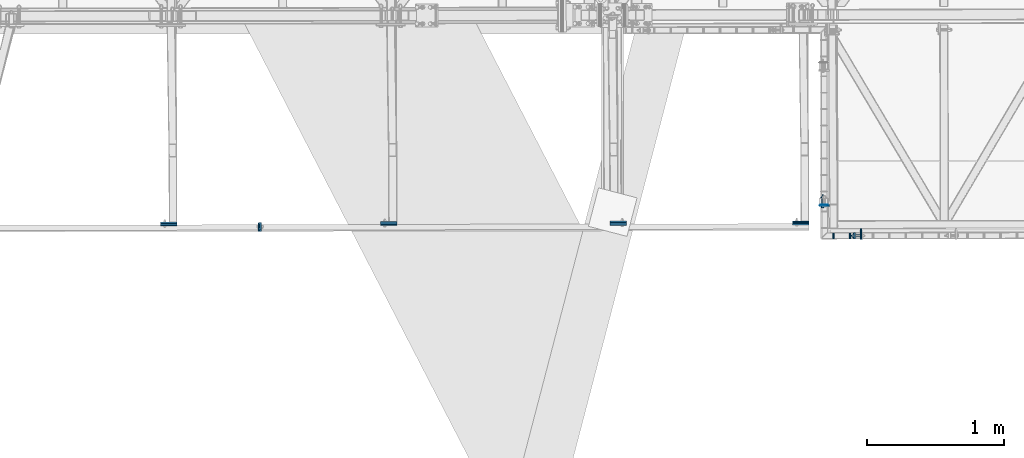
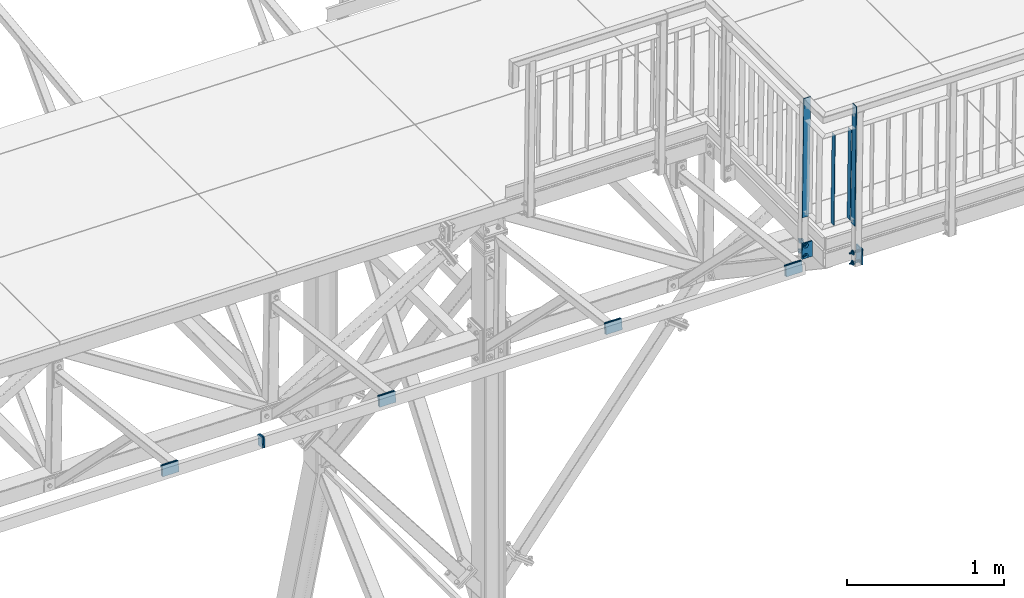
# One storey, part 98 of 169: 16 discrete accessories, 2 mechanical fasteners, 8 elements without a shape of their own.
"""IFC2X3 building model written with IfcOpenShell, lengths in millimetres."""

from ifc_helpers import new_model, si_unit, frame, origin_with_axes, origin_2d_with_axis, place, context, subcontext, project, spatial, polyline, rectangle, circle, outline, extrude, clip, halfspace, source, transform, mapped, material, type_object, element, aggregate, save


model = new_model("IFC2X3")

# Units and contexts
model_context = context("Model", 3, precision=1e-05, world=origin_with_axes())
body_context = subcontext(model_context, "Body", "Model", "MODEL_VIEW")
ifc_project = project(units=[si_unit("LENGTHUNIT", "METRE", prefix="MILLI"), si_unit("AREAUNIT", "SQUARE_METRE"), si_unit("VOLUMEUNIT", "CUBIC_METRE"), si_unit("MASSUNIT", "GRAM", prefix="KILO"), si_unit("TIMEUNIT", "SECOND"), si_unit("PLANEANGLEUNIT", "RADIAN"), si_unit("SOLIDANGLEUNIT", "STERADIAN"), si_unit("THERMODYNAMICTEMPERATUREUNIT", "DEGREE_CELSIUS"), si_unit("LUMINOUSINTENSITYUNIT", "LUMEN")], contexts=[model_context])

# Site, building, storey
site_placement = place(None, origin_with_axes())
site = spatial("IfcSite", under=ifc_project, at=site_placement, Name="Undefined", CompositionType="ELEMENT")
building_placement = place(site_placement, origin_with_axes())
building = spatial("IfcBuilding", under=site, at=building_placement, Name="Undefined", CompositionType="ELEMENT")
storey_placement = place(building_placement, origin_with_axes())
storey = spatial("IfcBuildingStorey", under=building, at=storey_placement, Name="Undefined", CompositionType="ELEMENT", Elevation=0.0)

# Assembly, discrete accessory
assembly_1_placement = place(storey_placement, origin_with_axes())
assembly_1 = element("IfcElementAssembly", 1, at=assembly_1_placement, inside=storey, Name="Steel Assembly", AssemblyPlace="NOTDEFINED", PredefinedType="RIGID_FRAME")
ifc_material_1 = material(Name="STEEL/S235")
discrete_accessory_type_1 = type_object("IfcDiscreteAccessoryType", Name="BLACHA")
discrete_accessory_1_placement = place(assembly_1_placement, frame((3560.31133572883, -1430.92960070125, 13861.3668822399), z_axis=(0.00334696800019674, -0.99305658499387, 0.117590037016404), x_axis=(0.0124056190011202, 0.117622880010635, 0.992980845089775)))
discrete_accessory_1 = element("IfcDiscreteAccessory", 2, at=discrete_accessory_1_placement, type_object=discrete_accessory_type_1, material=ifc_material_1, Name="BLACHA", ObjectType="BL10*55", context=body_context, shape_type="SweptSolid", body=[
    extrude(rectangle(XDim=10.0, YDim=55.0, at=origin_2d_with_axis()), frame((79.9999999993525, -4.5446979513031e-13, -4.53637127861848e-13), z_axis=(-1.0, -3.46944695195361e-18, -1.38777878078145e-17), x_axis=(1.73472347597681e-18, -1.0, 0.0)), (0.0, 0.0, 1.0), 80.0),
])

assembly_2_placement = place(storey_placement, origin_with_axes())
assembly_2 = element("IfcElementAssembly", 3, at=assembly_2_placement, inside=storey, Name="Steel Assembly", AssemblyPlace="NOTDEFINED", PredefinedType="RIGID_FRAME")
discrete_accessory_2_placement = place(assembly_2_placement, frame((3550.31216126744, -1430.94824758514, 13861.4940137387), z_axis=(0.00334696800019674, -0.99305658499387, 0.117590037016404), x_axis=(0.0124056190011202, 0.117622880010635, 0.992980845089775)))
discrete_accessory_2 = element("IfcDiscreteAccessory", 4, at=discrete_accessory_2_placement, type_object=discrete_accessory_type_1, material=ifc_material_1, Name="BLACHA", ObjectType="BL10*55", context=body_context, shape_type="SweptSolid", body=[
    extrude(rectangle(XDim=10.0, YDim=55.0, at=origin_2d_with_axis()), frame((79.9999999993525, -4.5446979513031e-13, -4.53637127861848e-13), z_axis=(-1.0, -3.46944695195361e-18, -1.38777878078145e-17), x_axis=(1.73472347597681e-18, -1.0, 0.0)), (0.0, 0.0, 1.0), 80.0),
])

assembly_3_placement = place(storey_placement, origin_with_axes())
assembly_3 = element("IfcElementAssembly", 5, at=assembly_3_placement, inside=storey, Name="Steel Assembly", AssemblyPlace="NOTDEFINED", PredefinedType="RIGID_FRAME")
discrete_accessory_3_placement = place(assembly_3_placement, frame((2893.26659711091, -1394.45847995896, 13946.002794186), z_axis=(-0.999917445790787, -0.00186469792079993, 0.0127131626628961), x_axis=(-0.0124058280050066, -0.117560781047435, -0.992988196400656)))
discrete_accessory_3 = element("IfcDiscreteAccessory", 6, at=discrete_accessory_3_placement, type_object=discrete_accessory_type_1, material=ifc_material_1, Name="BLACHA", ObjectType="BL10*120", context=body_context, shape_type="SweptSolid", body=[
    extrude(rectangle(XDim=10.0, YDim=120.0, at=origin_2d_with_axis()), frame((79.9999999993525, -4.5446979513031e-13, -4.53637127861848e-13), z_axis=(-1.0, -3.46944695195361e-18, -1.38777878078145e-17), x_axis=(1.73472347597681e-18, -1.0, 0.0)), (0.0, 0.0, 1.0), 80.0),
])
aggregate(assembly_3, [discrete_accessory_3])

# Discrete accessory
discrete_accessory_4_placement = place(assembly_2_placement, frame((2893.30273127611, -1405.38856979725, 13947.2416571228), z_axis=(-0.999917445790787, -0.00186469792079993, 0.0127131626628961), x_axis=(-0.0124058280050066, -0.117560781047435, -0.992988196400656)))
discrete_accessory_4 = element("IfcDiscreteAccessory", 7, at=discrete_accessory_4_placement, type_object=discrete_accessory_type_1, material=ifc_material_1, Name="BLACHA", ObjectType="BL10*120", context=body_context, shape_type="SweptSolid", body=[
    extrude(rectangle(XDim=10.0, YDim=120.0, at=origin_2d_with_axis()), frame((79.9999999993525, -4.5446979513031e-13, -4.53637127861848e-13), z_axis=(-1.0, -3.46944695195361e-18, -1.38777878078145e-17), x_axis=(1.73472347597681e-18, -1.0, 0.0)), (0.0, 0.0, 1.0), 80.0),
])

aggregate(assembly_2, [discrete_accessory_2, discrete_accessory_4])

# Assembly, discrete accessories
assembly_4_placement = place(storey_placement, origin_with_axes())
assembly_4 = element("IfcElementAssembly", 8, at=assembly_4_placement, inside=storey, Name="Steel Assembly", AssemblyPlace="NOTDEFINED", PredefinedType="RIGID_FRAME")
discrete_accessory_5_placement = place(assembly_4_placement, frame((7705.29067394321, -1270.61904360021, 13856.3390308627), z_axis=(-0.0018648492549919, 0.999998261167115, -4.2996762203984e-08), x_axis=(-0.999917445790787, -0.00186469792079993, 0.0127131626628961)))
discrete_accessory_5 = element("IfcDiscreteAccessory", 9, at=discrete_accessory_5_placement, type_object=discrete_accessory_type_1, material=ifc_material_1, Name="BLACHA", ObjectType="BL10*120", context=body_context, shape_type="SweptSolid", body=[
    extrude(outline(polyline([(75.0001398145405, -60.0000000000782), (-5.35749222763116e-11, -59.9999999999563), (5.3567816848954e-11, 59.9999999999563), (75.0001398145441, 59.9999999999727), (75.0001398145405, -60.0000000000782)])), frame((-1.81898926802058e-12, -1.18000176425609e-16, -5.00000000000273), z_axis=(0.0, 0.0, 1.0), x_axis=(1.0, 0.0, 0.0)), (0.0, 0.0, 1.0), 10.0),
])
discrete_accessory_6_placement = place(assembly_4_placement, frame((7935.58857246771, -1440.18986967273, 13853.4150127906), z_axis=(-0.999917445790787, -0.00186469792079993, 0.0127131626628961), x_axis=(0.00186484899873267, -0.999998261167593, 4.28757666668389e-08)))
discrete_accessory_6 = element("IfcDiscreteAccessory", 10, at=discrete_accessory_6_placement, type_object=discrete_accessory_type_1, material=ifc_material_1, Name="BLACHA", ObjectType="BL10*120", context=body_context, shape_type="SweptSolid", body=[
    extrude(outline(polyline([(75.0000002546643, -60.0000000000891), (-5.35749222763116e-11, -59.9999999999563), (5.3567816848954e-11, 59.9999999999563), (75.0000002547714, 59.9999999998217), (75.0000002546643, -60.0000000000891)])), frame((-1.81898926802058e-12, -1.18000176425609e-16, -5.00000000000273), z_axis=(0.0, 0.0, 1.0), x_axis=(1.0, 0.0, 0.0)), (0.0, 0.0, 1.0), 10.0),
])
aggregate(assembly_4, [discrete_accessory_5, discrete_accessory_6])

assembly_5_placement = place(storey_placement, origin_with_axes())
assembly_5 = element("IfcElementAssembly", 11, at=assembly_5_placement, inside=storey, Name="Steel Assembly", AssemblyPlace="NOTDEFINED", PredefinedType="RIGID_FRAME")
discrete_accessory_7_placement = place(assembly_5_placement, frame((7683.58063930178, -1268.15951414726, 14115.6359304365), z_axis=(-0.0018648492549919, 0.999998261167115, -4.2996762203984e-08), x_axis=(-0.999917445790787, -0.00186469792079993, 0.0127131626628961)))
discrete_accessory_7 = element("IfcDiscreteAccessory", 12, at=discrete_accessory_7_placement, type_object=discrete_accessory_type_1, material=ifc_material_1, Name="BLACHA", ObjectType="BL5*50", context=body_context, shape_type="SweptSolid", body=[
    extrude(outline(polyline([(0.0, 0.0), (50.0000000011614, 3.27418092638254e-11), (50.0000000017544, 926.000000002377), (3.10365066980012e-08, 926.000000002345), (0.0, 0.0)])), frame((6.80888809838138e-19, -2.87858853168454e-21, -2.49999999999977), z_axis=(0.0, 0.0, 1.0), x_axis=(1.0, 0.0, 0.0)), (0.0, 0.0, 1.0), 5.0),
])
discrete_accessory_8_placement = place(assembly_5_placement, frame((7881.43264806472, -1465.29089449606, 14113.1250892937), z_axis=(-0.999917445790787, -0.00186469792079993, 0.0127131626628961), x_axis=(0.00186484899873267, -0.999998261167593, 4.28757666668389e-08)))
discrete_accessory_8 = element("IfcDiscreteAccessory", 13, at=discrete_accessory_8_placement, type_object=discrete_accessory_type_1, material=ifc_material_1, Name="BLACHA", ObjectType="BL5*50", context=body_context, shape_type="SweptSolid", body=[
    extrude(outline(polyline([(0.0, 0.0), (50.0000000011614, 3.27418092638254e-11), (50.0000000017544, 926.000000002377), (3.10365066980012e-08, 926.000000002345), (0.0, 0.0)])), frame((6.80888809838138e-19, -2.87858853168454e-21, -2.49999999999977), z_axis=(0.0, 0.0, 1.0), x_axis=(1.0, 0.0, 0.0)), (0.0, 0.0, 1.0), 5.0),
])

# Assembly, discrete accessory
assembly_6_placement = place(storey_placement, origin_with_axes())
assembly_6 = element("IfcElementAssembly", 14, at=assembly_6_placement, inside=storey, Name="Steel Assembly", AssemblyPlace="NOTDEFINED", PredefinedType="RIGID_FRAME")
discrete_accessory_9_placement = place(assembly_6_placement, frame((6164.52002937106, -1397.75752235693, 13825.0164162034), z_axis=(0.9999174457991, 0.00186469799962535, -0.0127131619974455), x_axis=(0.0124056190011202, 0.117622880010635, 0.992980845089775)))
discrete_accessory_9 = element("IfcDiscreteAccessory", 15, at=discrete_accessory_9_placement, type_object=discrete_accessory_type_1, material=ifc_material_1, Name="BLACHA", ObjectType="BL10*120", context=body_context, shape_type="SweptSolid", body=[
    extrude(rectangle(XDim=10.0, YDim=120.0, at=origin_2d_with_axis()), frame((79.9999999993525, -4.5446979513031e-13, -4.53637127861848e-13), z_axis=(-1.0, -3.46944695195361e-18, -1.38777878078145e-17), x_axis=(1.73472347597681e-18, -1.0, 0.0)), (0.0, 0.0, 1.0), 80.0),
])
aggregate(assembly_6, [discrete_accessory_9])

# Discrete accessory
discrete_accessory_10_placement = place(assembly_1_placement, frame((6164.55544045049, -1408.6944715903, 13826.1974008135), z_axis=(0.9999174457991, 0.00186469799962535, -0.0127131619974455), x_axis=(0.0124056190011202, 0.117622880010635, 0.992980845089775)))
discrete_accessory_10 = element("IfcDiscreteAccessory", 16, at=discrete_accessory_10_placement, type_object=discrete_accessory_type_1, material=ifc_material_1, Name="BLACHA", ObjectType="BL10*120", context=body_context, shape_type="SweptSolid", body=[
    extrude(rectangle(XDim=10.0, YDim=120.0, at=origin_2d_with_axis()), frame((79.9999999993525, -4.5446979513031e-13, -4.53637127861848e-13), z_axis=(-1.0, -3.46944695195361e-18, -1.38777878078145e-17), x_axis=(1.73472347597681e-18, -1.0, 0.0)), (0.0, 0.0, 1.0), 80.0),
])

discrete_accessory_11_placement = place(assembly_1_placement, frame((7495.92038784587, -1396.80536907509, 13888.7230042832), z_axis=(-0.999917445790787, -0.00186469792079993, 0.0127131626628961), x_axis=(-0.0124058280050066, -0.117560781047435, -0.992988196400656)))
discrete_accessory_11 = element("IfcDiscreteAccessory", 17, at=discrete_accessory_11_placement, type_object=discrete_accessory_type_1, material=ifc_material_1, Name="BLACHA", ObjectType="BL10*120", context=body_context, shape_type="SweptSolid", body=[
    extrude(rectangle(XDim=10.0, YDim=120.0, at=origin_2d_with_axis()), frame((79.9999999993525, -4.5446979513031e-13, -4.53637127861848e-13), z_axis=(-1.0, -3.46944695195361e-18, -1.38777878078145e-17), x_axis=(1.73472347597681e-18, -1.0, 0.0)), (0.0, 0.0, 1.0), 80.0),
])

# Assembly, discrete accessory
assembly_7_placement = place(storey_placement, origin_with_axes())
assembly_7 = element("IfcElementAssembly", 18, at=assembly_7_placement, inside=storey, Name="Steel Assembly", AssemblyPlace="NOTDEFINED", PredefinedType="RIGID_FRAME")
discrete_accessory_12_placement = place(assembly_7_placement, frame((7495.88425366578, -1385.87527937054, 13887.4841401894), z_axis=(-0.999917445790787, -0.00186469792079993, 0.0127131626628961), x_axis=(-0.0124058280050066, -0.117560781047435, -0.992988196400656)))
discrete_accessory_12 = element("IfcDiscreteAccessory", 19, at=discrete_accessory_12_placement, type_object=discrete_accessory_type_1, material=ifc_material_1, Name="BLACHA", ObjectType="BL10*120", context=body_context, shape_type="SweptSolid", body=[
    extrude(rectangle(XDim=10.0, YDim=120.0, at=origin_2d_with_axis()), frame((79.9999999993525, -4.5446979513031e-13, -4.53637127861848e-13), z_axis=(-1.0, -3.46944695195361e-18, -1.38777878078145e-17), x_axis=(1.73472347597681e-18, -1.0, 0.0)), (0.0, 0.0, 1.0), 80.0),
])
aggregate(assembly_7, [discrete_accessory_12])

assembly_8_placement = place(storey_placement, origin_with_axes())
assembly_8 = element("IfcElementAssembly", 20, at=assembly_8_placement, inside=storey, Name="Steel Assembly", AssemblyPlace="NOTDEFINED", PredefinedType="RIGID_FRAME")
discrete_accessory_13_placement = place(assembly_8_placement, frame((4494.6497294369, -1391.47213746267, 13925.6424705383), z_axis=(-0.999917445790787, -0.00186469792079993, 0.0127131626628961), x_axis=(-0.0124058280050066, -0.117560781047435, -0.992988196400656)))
discrete_accessory_13 = element("IfcDiscreteAccessory", 21, at=discrete_accessory_13_placement, type_object=discrete_accessory_type_1, material=ifc_material_1, Name="BLACHA", ObjectType="BL10*120", context=body_context, shape_type="SweptSolid", body=[
    extrude(rectangle(XDim=10.0, YDim=120.0, at=origin_2d_with_axis()), frame((79.9999999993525, -4.5446979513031e-13, -4.53637127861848e-13), z_axis=(-1.0, -3.46944695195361e-18, -1.38777878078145e-17), x_axis=(1.73472347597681e-18, -1.0, 0.0)), (0.0, 0.0, 1.0), 80.0),
])
aggregate(assembly_8, [discrete_accessory_13])

# Discrete accessory
discrete_accessory_14_placement = place(assembly_1_placement, frame((4494.68586351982, -1402.40222713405, 13926.8813348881), z_axis=(-0.999917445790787, -0.00186469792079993, 0.0127131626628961), x_axis=(-0.0124058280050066, -0.117560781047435, -0.992988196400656)))
discrete_accessory_14 = element("IfcDiscreteAccessory", 22, at=discrete_accessory_14_placement, type_object=discrete_accessory_type_1, material=ifc_material_1, Name="BLACHA", ObjectType="BL10*120", context=body_context, shape_type="SweptSolid", body=[
    extrude(rectangle(XDim=10.0, YDim=120.0, at=origin_2d_with_axis()), frame((79.9999999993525, -4.5446979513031e-13, -4.53637127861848e-13), z_axis=(-1.0, -3.46944695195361e-18, -1.38777878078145e-17), x_axis=(1.73472347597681e-18, -1.0, 0.0)), (0.0, 0.0, 1.0), 80.0),
])

aggregate(assembly_1, [discrete_accessory_1, discrete_accessory_10, discrete_accessory_11, discrete_accessory_14])

discrete_accessory_type_2 = type_object("IfcDiscreteAccessoryType", Name="PORĘCZ")
discrete_accessory_15_placement = place(assembly_5_placement, frame((7740.61303698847, -1490.55350720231, 15015.9889139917), z_axis=(-0.0018648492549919, 0.999998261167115, -4.2996762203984e-08), x_axis=(-0.012713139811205, -2.37511238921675e-05, -0.999919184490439)))
discrete_accessory_15 = element("IfcDiscreteAccessory", 23, at=discrete_accessory_15_placement, type_object=discrete_accessory_type_2, material=ifc_material_1, Name="PORĘCZ", ObjectType="BL40*3", context=body_context, shape_type="Clipping", body=[
    clip(clip(extrude(rectangle(XDim=3.0, YDim=40.0, at=origin_2d_with_axis()), frame((848.500000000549, 1.47191286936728e-15, -8.89750592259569e-16), z_axis=(-1.0, -3.46944695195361e-18, -1.38777878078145e-17), x_axis=(1.73472347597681e-18, -1.0, 0.0)), (0.0, 0.0, 1.0), 702.0), halfspace(frame((848.499999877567, 4.522007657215e-09, 1000.00000000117), z_axis=(-1.0, -3.46944695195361e-18, -1.38777878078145e-17), x_axis=(1.73472347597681e-18, -1.0, 0.0)), True)), halfspace(frame((146.499999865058, 4.97311702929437e-09, 1000.00000000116), z_axis=(1.0, 0.0, 0.0), x_axis=(0.0, 1.0, 0.0)), True)),
])

discrete_accessory_16_placement = place(assembly_5_placement, frame((7860.60313048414, -1490.32974344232, 15014.463334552), z_axis=(-0.0018648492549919, 0.999998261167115, -4.2996762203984e-08), x_axis=(-0.012713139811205, -2.37511238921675e-05, -0.999919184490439)))
discrete_accessory_16 = element("IfcDiscreteAccessory", 24, at=discrete_accessory_16_placement, type_object=discrete_accessory_type_2, material=ifc_material_1, Name="PORĘCZ", ObjectType="BL40*3", context=body_context, shape_type="Clipping", body=[
    clip(clip(extrude(rectangle(XDim=3.0, YDim=40.0, at=origin_2d_with_axis()), frame((848.500000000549, 1.47191286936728e-15, -8.89750592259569e-16), z_axis=(-1.0, -3.46944695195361e-18, -1.38777878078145e-17), x_axis=(1.73472347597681e-18, -1.0, 0.0)), (0.0, 0.0, 1.0), 702.0), halfspace(frame((848.499999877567, 4.522007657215e-09, 1000.00000000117), z_axis=(-1.0, -3.46944695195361e-18, -1.38777878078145e-17), x_axis=(1.73472347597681e-18, -1.0, 0.0)), True)), halfspace(frame((146.499999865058, 4.97311702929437e-09, 1000.00000000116), z_axis=(1.0, 0.0, 0.0), x_axis=(0.0, 1.0, 0.0)), True)),
])

# Mechanical fastener
ifc_material_2 = material(Name="Undefined")
discrete_accessory_type_3 = type_object("IfcDiscreteAccessoryType", Name="Bolt assembly")
shared_shape = source(origin_with_axes(), body_context, "Body", "SweptSolid", [
    extrude(circle(Radius=9.0, at=origin_2d_with_axis()), frame((0.0, -4.90000000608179, 0.0), z_axis=(0.0, 1.0, 0.0), x_axis=(1.0, 0.0, 0.0)), (0.0, 0.0, 1.0), 10.0),
    extrude(circle(Radius=9.0, at=origin_2d_with_axis()), frame((0.0, 4.89999999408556, 0.0), z_axis=(0.0, 1.0, 0.0), x_axis=(1.0, 0.0, 0.0)), (0.0, 0.0, 1.0), 50.1),
    extrude(outline(polyline([(10.39230484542, 0.0), (5.19615242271, 9.00000000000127), (-5.19615242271, 9.00000000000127), (-10.39230484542, 0.0), (-5.19615242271, -9.00000000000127), (5.19615242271, -9.00000000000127), (10.39230484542, 0.0)])), frame((0.0, -15.5000000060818, 0.0), z_axis=(0.0, 1.0, 0.0), x_axis=(1.0, 0.0, 0.0)), (0.0, 0.0, 1.0), 7.5),
    extrude(circle(Radius=6.0, at=origin_2d_with_axis()), frame((0.0, -8.00000000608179, 0.0), z_axis=(0.0, 1.0, 0.0), x_axis=(1.0, 0.0, 0.0)), (0.0, 0.0, 1.0), 90.0),
    extrude(circle(Radius=18.5, at=origin_2d_with_axis()), frame((0.0, -8.00000000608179, 0.0), z_axis=(0.0, 1.0, 0.0), x_axis=(1.0, 0.0, 0.0)), (0.0, 0.0, 1.0), 3.0),
    extrude(circle(Radius=18.5, at=origin_2d_with_axis()), frame((0.0, 54.9999999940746, 0.0), z_axis=(0.0, 1.0, 0.0), x_axis=(1.0, 0.0, 0.0)), (0.0, 0.0, 1.0), 3.0),
    extrude(outline(polyline([(10.96965511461, 0.0), (5.484827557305, 9.50000000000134), (-5.484827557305, 9.50000000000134), (-10.96965511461, 0.0), (-5.484827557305, -9.50000000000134), (5.484827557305, -9.50000000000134), (10.96965511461, 0.0)])), frame((0.0, 57.9999999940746, 0.0), z_axis=(0.0, 1.0, 0.0), x_axis=(1.0, 0.0, 0.0)), (0.0, 0.0, 1.0), 10.0),
])
mechanical_fastener_1_placement = place(assembly_5_placement, frame((7655.30101870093, -1270.71226689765, 13857.4746503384), z_axis=(0.0122131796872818, 2.28189994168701e-05, 0.999925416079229), x_axis=(0.999923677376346, 0.00186471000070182, -0.0122132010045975)))
mechanical_fastener_1 = element("IfcMechanicalFastener", 25, at=mechanical_fastener_1_placement, type_object=discrete_accessory_type_3, material=ifc_material_2, Name="Bolt assembly", NominalDiameter=12.0, NominalLength=90.0, context=body_context, shape_type="MappedRepresentation", body=[
    mapped(shared_shape, transform((-1.15463194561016e-14, 5.45696821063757e-11, -39.9999999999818))),
    mapped(shared_shape, transform((8.88178419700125e-15, -5.54791768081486e-11, 39.99999999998))),
])

mechanical_fastener_2_placement = place(assembly_5_placement, frame((7935.68817153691, -1490.18977047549, 13853.914974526), z_axis=(0.0127140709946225, -0.00047624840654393, 0.999919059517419), x_axis=(-0.00185849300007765, 0.999998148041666, 0.000499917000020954)))
mechanical_fastener_2 = element("IfcMechanicalFastener", 26, at=mechanical_fastener_2_placement, type_object=discrete_accessory_type_3, material=ifc_material_2, Name="Bolt assembly", NominalDiameter=12.0, NominalLength=90.0, context=body_context, shape_type="MappedRepresentation", body=[
    mapped(shared_shape, transform((-1.15463194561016e-14, 5.45696821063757e-11, -39.9999999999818))),
    mapped(shared_shape, transform((8.88178419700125e-15, -5.54791768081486e-11, 39.99999999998))),
])

aggregate(assembly_5, [discrete_accessory_15, discrete_accessory_16, mechanical_fastener_1, mechanical_fastener_2, discrete_accessory_7, discrete_accessory_8])

save(model, "model.ifc")
